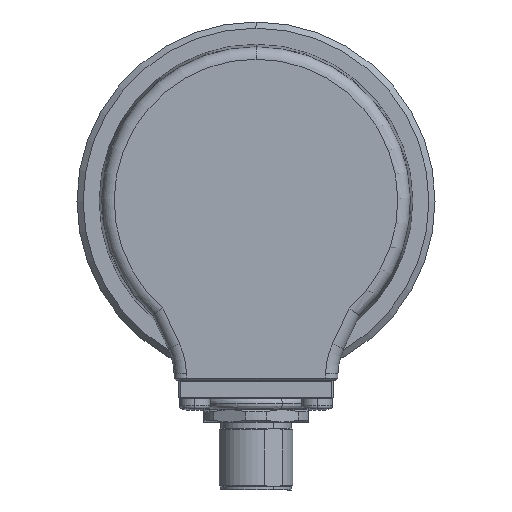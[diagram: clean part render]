
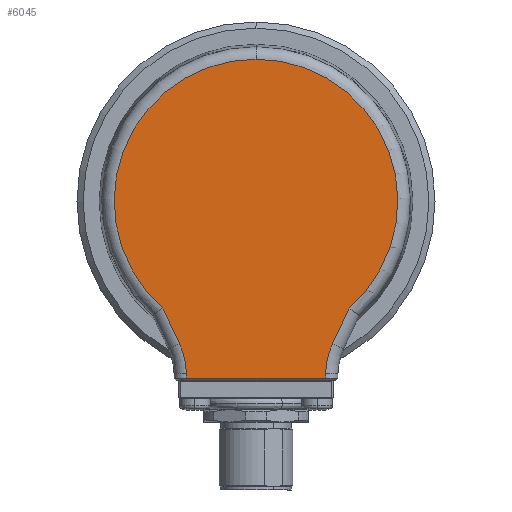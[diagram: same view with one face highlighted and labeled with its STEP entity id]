
A CAD part, left-side view. The second image highlights one B-rep face of the part: STEP entity #6045.
In plain terms, the highlighted planar face has unit normal (-1, 0, 0).
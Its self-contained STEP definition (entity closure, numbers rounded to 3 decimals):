
#107 = CIRCLE ( 'NONE', #7682, 12. ) ;
#335 = VECTOR ( 'NONE', #13292, 1000. ) ;
#593 = CIRCLE ( 'NONE', #3782, 22.972 ) ;
#929 = LINE ( 'NONE', #11498, #335 ) ;
#1208 = VERTEX_POINT ( 'NONE', #1361 ) ;
#1287 = CIRCLE ( 'NONE', #9233, 22.972 ) ;
#1361 = CARTESIAN_POINT ( 'NONE',  ( -21., -11.255, -28.695 ) ) ;
#1463 = ORIENTED_EDGE ( 'NONE', *, *, #1524, .T. ) ;
#1524 = EDGE_CURVE ( 'NONE', #19913, #18598, #593, .T. ) ;
#1632 = VECTOR ( 'NONE', #13932, 1000. ) ;
#1747 = VERTEX_POINT ( 'NONE', #7386 ) ;
#1948 = CARTESIAN_POINT ( 'NONE',  ( -21., -15.091, -17.32 ) ) ;
#2299 = VERTEX_POINT ( 'NONE', #6150 ) ;
#2575 = VERTEX_POINT ( 'NONE', #11228 ) ;
#2596 = EDGE_CURVE ( 'NONE', #18598, #2299, #1287, .T. ) ;
#3169 = CARTESIAN_POINT ( 'NONE',  ( -21., -11.752, -0.205 ) ) ;
#3697 = EDGE_CURVE ( 'NONE', #2299, #18482, #18608, .T. ) ;
#3782 = AXIS2_PLACEMENT_3D ( 'NONE', #12179, #17360, #4299 ) ;
#4003 = CARTESIAN_POINT ( 'NONE',  ( -21., 0., 0. ) ) ;
#4299 = DIRECTION ( 'NONE',  ( 0., 0., 1. ) ) ;
#4348 = DIRECTION ( 'NONE',  ( 0., -0.423, 0.906 ) ) ;
#4539 = CARTESIAN_POINT ( 'NONE',  ( -21., 0., 22.972 ) ) ;
#5055 = DIRECTION ( 'NONE',  ( 0., 0., 1. ) ) ;
#5057 = CIRCLE ( 'NONE', #5380, 12. ) ;
#5380 = AXIS2_PLACEMENT_3D ( 'NONE', #19603, #12054, #18868 ) ;
#5699 = LINE ( 'NONE', #9019, #13495 ) ;
#6045 = ADVANCED_FACE ( 'NONE', ( #15426 ), #13995, .F. ) ;
#6075 = VECTOR ( 'NONE', #18972, 1000. ) ;
#6150 = CARTESIAN_POINT ( 'NONE',  ( -21., 15.091, -17.32 ) ) ;
#6187 = ORIENTED_EDGE ( 'NONE', *, *, #2596, .T. ) ;
#6193 = CARTESIAN_POINT ( 'NONE',  ( -21., 11.255, -28.695 ) ) ;
#6521 = ORIENTED_EDGE ( 'NONE', *, *, #3697, .T. ) ;
#6556 = AXIS2_PLACEMENT_3D ( 'NONE', #14092, #20045, #14861 ) ;
#6931 = EDGE_CURVE ( 'NONE', #2575, #19913, #9532, .T. ) ;
#7386 = CARTESIAN_POINT ( 'NONE',  ( -21., -11.268, -27.974 ) ) ;
#7622 = EDGE_CURVE ( 'NONE', #17008, #1208, #5699, .T. ) ;
#7682 = AXIS2_PLACEMENT_3D ( 'NONE', #17597, #8173, #19185 ) ;
#8173 = DIRECTION ( 'NONE',  ( 1., 0., 0. ) ) ;
#8710 = LINE ( 'NONE', #3169, #6075 ) ;
#8713 = EDGE_CURVE ( 'NONE', #1208, #1747, #8710, .T. ) ;
#9019 = CARTESIAN_POINT ( 'NONE',  ( -21., -11.25, -28.695 ) ) ;
#9233 = AXIS2_PLACEMENT_3D ( 'NONE', #4003, #13082, #5055 ) ;
#9476 = EDGE_CURVE ( 'NONE', #18482, #18684, #5057, .T. ) ;
#9532 = LINE ( 'NONE', #18737, #12452 ) ;
#9650 = ORIENTED_EDGE ( 'NONE', *, *, #7622, .T. ) ;
#9914 = EDGE_CURVE ( 'NONE', #18684, #17008, #929, .T. ) ;
#11228 = CARTESIAN_POINT ( 'NONE',  ( -21., -12.39, -23.112 ) ) ;
#11498 = CARTESIAN_POINT ( 'NONE',  ( -21., 11.752, -0.205 ) ) ;
#12054 = DIRECTION ( 'NONE',  ( 1., 0., 0. ) ) ;
#12179 = CARTESIAN_POINT ( 'NONE',  ( -21., 0., 0. ) ) ;
#12268 = ORIENTED_EDGE ( 'NONE', *, *, #6931, .T. ) ;
#12452 = VECTOR ( 'NONE', #4348, 1000. ) ;
#13082 = DIRECTION ( 'NONE',  ( -1., 0., 0. ) ) ;
#13292 = DIRECTION ( 'NONE',  ( 0., -0.017, -1. ) ) ;
#13345 = ORIENTED_EDGE ( 'NONE', *, *, #16594, .T. ) ;
#13495 = VECTOR ( 'NONE', #15942, 1000. ) ;
#13932 = DIRECTION ( 'NONE',  ( 0., -0.423, -0.906 ) ) ;
#13995 = PLANE ( 'NONE',  #6556 ) ;
#14092 = CARTESIAN_POINT ( 'NONE',  ( -21., 0., 0. ) ) ;
#14861 = DIRECTION ( 'NONE',  ( 0., 0., 1. ) ) ;
#15300 = CARTESIAN_POINT ( 'NONE',  ( -21., 12.39, -23.112 ) ) ;
#15426 = FACE_OUTER_BOUND ( 'NONE', #18285, .T. ) ;
#15942 = DIRECTION ( 'NONE',  ( 0., -1., 0. ) ) ;
#16252 = ORIENTED_EDGE ( 'NONE', *, *, #9914, .T. ) ;
#16594 = EDGE_CURVE ( 'NONE', #1747, #2575, #107, .T. ) ;
#16632 = CARTESIAN_POINT ( 'NONE',  ( -21., 12.39, -23.112 ) ) ;
#17008 = VERTEX_POINT ( 'NONE', #6193 ) ;
#17360 = DIRECTION ( 'NONE',  ( -1., 0., 0. ) ) ;
#17597 = CARTESIAN_POINT ( 'NONE',  ( -21., -23.266, -28.183 ) ) ;
#18285 = EDGE_LOOP ( 'NONE', ( #16252, #9650, #19216, #13345, #12268, #1463, #6187, #6521, #18570 ) ) ;
#18482 = VERTEX_POINT ( 'NONE', #15300 ) ;
#18570 = ORIENTED_EDGE ( 'NONE', *, *, #9476, .T. ) ;
#18598 = VERTEX_POINT ( 'NONE', #4539 ) ;
#18608 = LINE ( 'NONE', #16632, #1632 ) ;
#18684 = VERTEX_POINT ( 'NONE', #20395 ) ;
#18737 = CARTESIAN_POINT ( 'NONE',  ( -21., -14.953, -17.615 ) ) ;
#18868 = DIRECTION ( 'NONE',  ( 0., 0., 1. ) ) ;
#18972 = DIRECTION ( 'NONE',  ( 0., -0.017, 1. ) ) ;
#19185 = DIRECTION ( 'NONE',  ( 0., 0., 1. ) ) ;
#19216 = ORIENTED_EDGE ( 'NONE', *, *, #8713, .T. ) ;
#19603 = CARTESIAN_POINT ( 'NONE',  ( -21., 23.266, -28.183 ) ) ;
#19913 = VERTEX_POINT ( 'NONE', #1948 ) ;
#20045 = DIRECTION ( 'NONE',  ( 1., 0., 0. ) ) ;
#20395 = CARTESIAN_POINT ( 'NONE',  ( -21., 11.268, -27.974 ) ) ;
